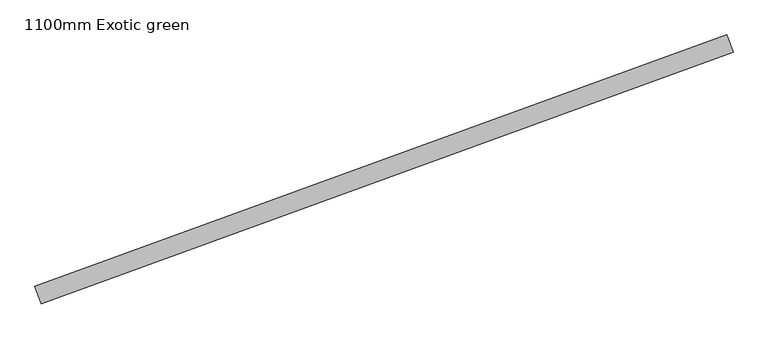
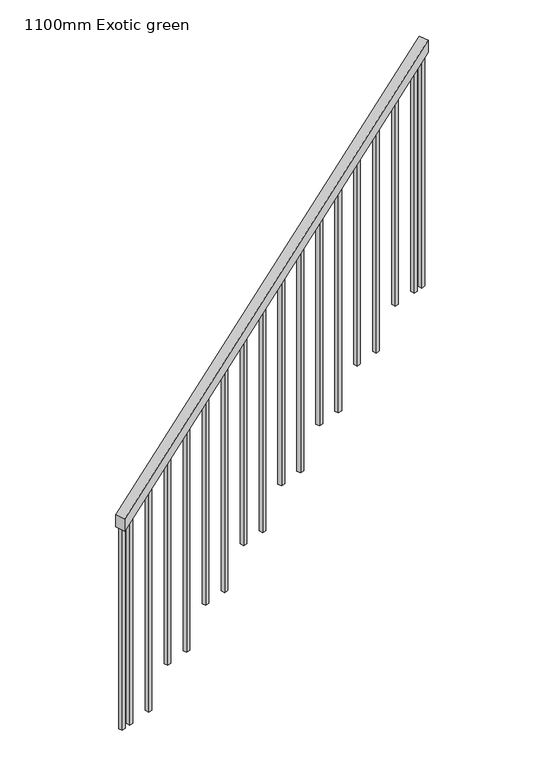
"""IFC4 building model written with IfcOpenShell, lengths in millimetres: railing geometry, 1100mm Exotic green."""

from ifc_helpers import new_model, si_unit, frame, origin, place, context, project, spatial, polyline, outline, extrude, source, transform, mapped, element, save


def railing_1100mm_exotic_green_0b16cb9b(model_context):
    return source(origin(), model_context, "Body", "SweptSolid", [
        extrude(outline(polyline([(35.1111112, -50.0000001), (0.0, 0.0), (2443.862557, 0.0), (2478.9736681, -50.0), (35.1111112, -50.0000001)])), frame((29357.0697684, 11341.2864699, 7234.4589916), z_axis=(-0.34202000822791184, 0.9396926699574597, 0.0), x_axis=(0.7690225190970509, 0.27990118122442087, 0.5746822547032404)), (0.0, 0.0, 1.0), 50.0),
        extrude(outline(polyline([(107.0222222, 0.0), (1281.6666667, 0.0), (1281.6666667, -20.0), (92.9777778, -20.0), (107.0222222, 0.0)])), frame((31163.1970896, 12014.6254258, 8706.1111111), z_axis=(-0.3420200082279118, 0.9396926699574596, 0.0), x_axis=(0.0, 0.0, -1.0)), (0.0, 0.0, 1.0), 20.0),
        extrude(outline(polyline([(107.0222222, 0.0), (1193.8888889, 0.0), (1193.8888889, -20.0), (92.9777777, -20.0), (107.0222222, 0.0)])), frame((31045.7355059, 11971.8729248, 8618.3333333), z_axis=(-0.3420200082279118, 0.9396926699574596, 0.0), x_axis=(0.0, 0.0, -1.0)), (0.0, 0.0, 1.0), 20.0),
        extrude(outline(polyline([(107.0222223, 0.0), (1281.6666667, 0.0), (1281.6666667, -20.0), (92.9777778, -20.0), (107.0222223, 0.0)])), frame((30928.2739221, 11929.1204238, 8530.5555556), z_axis=(-0.3420200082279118, 0.9396926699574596, 0.0), x_axis=(0.0, 0.0, -1.0)), (0.0, 0.0, 1.0), 20.0),
        extrude(outline(polyline([(107.0222222, 0.0), (1193.8888889, 0.0), (1193.8888889, -20.0), (92.9777778, -20.0), (107.0222222, 0.0)])), frame((30810.8123384, 11886.3679228, 8442.7777778), z_axis=(-0.3420200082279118, 0.9396926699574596, 0.0), x_axis=(0.0, 0.0, -1.0)), (0.0, 0.0, 1.0), 20.0),
        extrude(outline(polyline([(107.0222222, 0.0), (1281.6666667, 0.0), (1281.6666667, -20.0), (92.9777778, -20.0), (107.0222222, 0.0)])), frame((30693.3507546, 11843.6154217, 8355.0), z_axis=(-0.3420200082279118, 0.9396926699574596, 0.0), x_axis=(0.0, 0.0, -1.0)), (0.0, 0.0, 1.0), 20.0),
        extrude(outline(polyline([(107.0222222, 0.0), (1193.8888889, 0.0), (1193.8888889, -20.0), (92.9777778, -20.0), (107.0222222, 0.0)])), frame((30575.8891709, 11800.8629207, 8267.2222222), z_axis=(-0.3420200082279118, 0.9396926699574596, 0.0), x_axis=(0.0, 0.0, -1.0)), (0.0, 0.0, 1.0), 20.0),
        extrude(outline(polyline([(107.0222222, 0.0), (1281.6666666, 0.0), (1281.6666666, -20.0), (92.9777777, -20.0), (107.0222222, 0.0)])), frame((30458.4275872, 11758.1104197, 8179.4444444), z_axis=(-0.3420200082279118, 0.9396926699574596, 0.0), x_axis=(0.0, 0.0, -1.0)), (0.0, 0.0, 1.0), 20.0),
        extrude(outline(polyline([(107.0222223, 0.0), (1193.8888889, 0.0), (1193.8888889, -20.0), (92.9777778, -20.0), (107.0222223, 0.0)])), frame((30340.9660034, 11715.3579186, 8091.6666667), z_axis=(-0.3420200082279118, 0.9396926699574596, 0.0), x_axis=(0.0, 0.0, -1.0)), (0.0, 0.0, 1.0), 20.0),
        extrude(outline(polyline([(107.0222222, 0.0), (1281.6666667, 0.0), (1281.6666667, -20.0), (92.9777778, -20.0), (107.0222222, 0.0)])), frame((30223.5044197, 11672.6054176, 8003.8888889), z_axis=(-0.3420200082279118, 0.9396926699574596, 0.0), x_axis=(0.0, 0.0, -1.0)), (0.0, 0.0, 1.0), 20.0),
        extrude(outline(polyline([(107.0222222, 0.0), (1193.8888889, 0.0), (1193.8888889, -20.0), (92.9777778, -20.0), (107.0222222, 0.0)])), frame((30106.0428359, 11629.8529166, 7916.1111111), z_axis=(-0.3420200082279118, 0.9396926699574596, 0.0), x_axis=(0.0, 0.0, -1.0)), (0.0, 0.0, 1.0), 20.0),
        extrude(outline(polyline([(107.0222222, 0.0), (1281.6666666, 0.0), (1281.6666666, -20.0), (92.9777777, -20.0), (107.0222222, 0.0)])), frame((29988.5812522, 11587.1004156, 7828.3333333), z_axis=(-0.3420200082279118, 0.9396926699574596, 0.0), x_axis=(0.0, 0.0, -1.0)), (0.0, 0.0, 1.0), 20.0),
        extrude(outline(polyline([(107.0222223, 0.0), (1193.8888889, 0.0), (1193.8888889, -20.0), (92.9777778, -20.0), (107.0222223, 0.0)])), frame((29871.1196684, 11544.3479145, 7740.5555556), z_axis=(-0.3420200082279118, 0.9396926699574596, 0.0), x_axis=(0.0, 0.0, -1.0)), (0.0, 0.0, 1.0), 20.0),
        extrude(outline(polyline([(107.0222222, 0.0), (1281.6666667, 0.0), (1281.6666667, -20.0), (92.9777778, -20.0), (107.0222222, 0.0)])), frame((29753.6580847, 11501.5954135, 7652.7777778), z_axis=(-0.3420200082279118, 0.9396926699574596, 0.0), x_axis=(0.0, 0.0, -1.0)), (0.0, 0.0, 1.0), 20.0),
        extrude(outline(polyline([(107.0222222, 0.0), (1193.8888889, 0.0), (1193.8888889, -20.0), (92.9777778, -20.0), (107.0222222, 0.0)])), frame((29636.1965009, 11458.8429125, 7565.0), z_axis=(-0.3420200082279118, 0.9396926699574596, 0.0), x_axis=(0.0, 0.0, -1.0)), (0.0, 0.0, 1.0), 20.0),
        extrude(outline(polyline([(107.0222222, 0.0), (1281.6666666, 0.0), (1281.6666666, -20.0), (92.9777778, -20.0), (107.0222222, 0.0)])), frame((29518.7349172, 11416.0904114, 7477.2222222), z_axis=(-0.3420200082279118, 0.9396926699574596, 0.0), x_axis=(0.0, 0.0, -1.0)), (0.0, 0.0, 1.0), 20.0),
        extrude(outline(polyline([(107.0222222, 0.0), (1193.8888888, 0.0), (1193.8888888, -20.0), (92.9777777, -20.0), (107.0222222, 0.0)])), frame((29401.2733335, 11373.3379104, 7389.4444444), z_axis=(-0.3420200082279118, 0.9396926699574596, 0.0), x_axis=(0.0, 0.0, -1.0)), (0.0, 0.0, 1.0), 20.0),
        extrude(outline(polyline([(107.0222222, 0.0), (1316.7777778, 0.0), (1316.7777778, -20.0), (92.9777778, -20.0), (107.0222222, 0.0)])), frame((31210.1817231, 12031.7264262, 8741.2222222), z_axis=(-0.3420200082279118, 0.9396926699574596, 0.0), x_axis=(0.0, 0.0, -1.0)), (0.0, 0.0, 1.0), 20.0),
        extrude(outline(polyline([(107.0222222, 0.0), (1158.7777777, 0.0), (1158.7777777, -20.0), (92.9777777, -20.0), (107.0222222, 0.0)])), frame((29354.2887, 11356.23691, 7354.3333333), z_axis=(-0.3420200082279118, 0.9396926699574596, 0.0), x_axis=(0.0, 0.0, -1.0)), (0.0, 0.0, 1.0), 20.0),
    ])


if __name__ == "__main__":
    model = new_model("IFC4")
    model_context = context("Model", 3, world=origin())
    ifc_project = project(units=[si_unit("LENGTHUNIT", "METRE", prefix="MILLI")], contexts=[model_context])
    site = spatial("IfcSite", under=ifc_project)
    building = spatial("IfcBuilding", under=site)
    placement = place(None, origin())
    railing_1100mm_exotic_green_shape = railing_1100mm_exotic_green_0b16cb9b(model_context)
    element("IfcRailing", 1, ObjectType="1100mm Exotic green", at=placement, inside=building, context=model_context, shape_type="MappedRepresentation", body=[
        mapped(railing_1100mm_exotic_green_shape, transform((0.0, 0.0, 0.0), x_axis=(1.0, 0.0, 0.0), y_axis=(0.0, 1.0, 0.0), z_axis=(0.0, 0.0, 1.0))),
    ])
    save(model, "model.ifc")
